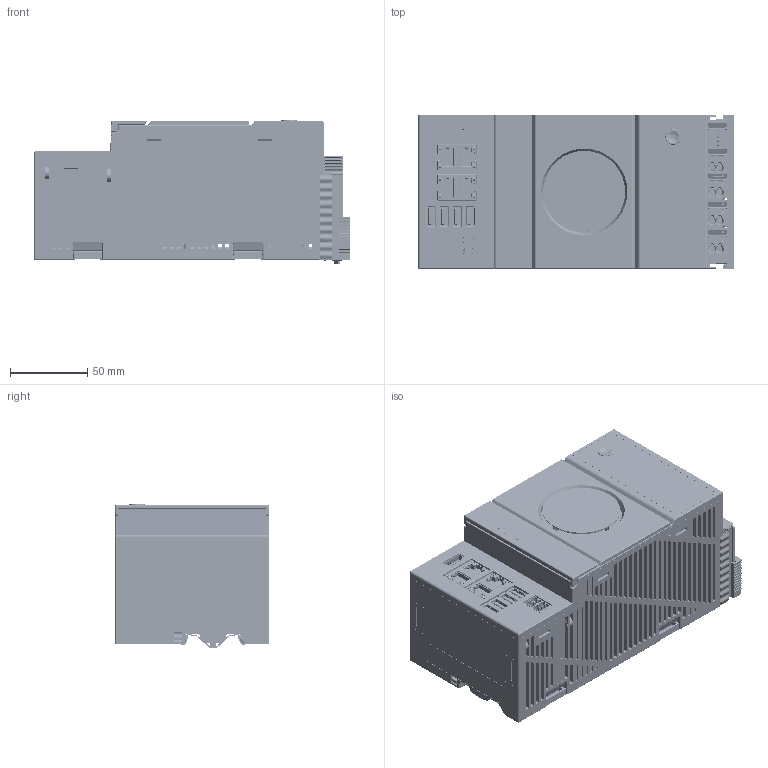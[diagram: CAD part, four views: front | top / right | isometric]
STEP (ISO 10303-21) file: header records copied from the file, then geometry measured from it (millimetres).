
FILE_DESCRIPTION (( 'STEP AP203' ), '1' );
FILE_NAME ('sx2翋儂-褫俋楷.STEP', '2023-08-08T01:57:00', ( '' ), ( '' ), 'SwSTEP 2.0', 'SolidWorks 2016', '' );
FILE_SCHEMA (( 'CONFIG_CONTROL_DESIGN' ));
Length unit declared in the file: millimetre
Products named in the file (57): BATTY; SK-2; NP; CK_ASM; PCB-JK-4RJ45_ASM; BACK-COVER2; SX20-TOP-COVER_ASM; SX20-HARDWARE-COVER_ASM; TJC8_4P; SX20-BACK-COVER_ASM; LCD_PM; DF750-200-1Y-XXAH; SX20-HARDWARE-STACKING_ASM; TOP-COVER1; M2X4X4; 08-CF-CARD_ASM; M3_6; TP-1_32; PMMA; BACK-COVER; TJC8_4P_G; 2032; FS_ZJ_ASM; UG_2864_FPC; LED; PMMA_BJ; TOP-COVER; 15EDGRHC-THR-3_5-04P-13-00A_H_; FS_ZJ2; HK_MLA; TP-2_14; LOCK-1; 笝傷裔啣; TOP-COVER3; PCB-DY-JR; ZZ; CF_1__1; PCB-KZ_ASM; GJ3; FS_ZJ2_ASM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
Assembly tree (80 placements, depth 5):
  sx2翋儂-褫俋楷
    SX20-HARDWARE-STACKING_ASM
      PCB-KZ_ASM
        DF750-200-1Y-XXAH
        PCB-DY-JR
        SW-P-M3-L6  x2
      PCB-JK-4RJ45_ASM
        CK_ASM
          15EDGRHC-THR-3_5-04P-13-00A_H_
        HDMI
        UEA1112C-QHD6-4F_3D
        SW-P-M3-L6
        RRU_2-1_1_  x2
      PCB-DC_ASM
        08-CF-CARD_ASM
          CFAST-C_1
          CF_1__1
        BATTY
        LED  x4
        2032
        SW-P-M3-L6  x2
      ZZ
      M2__3_4  x4
      SW-P-M2-L5  x4
      UG_2864_FPC
      TJC8_4P
      TJC8_4P_G
    SX20-HARDWARE-COVER_ASM
      SX20-TOP-COVER_ASM
        TOP-COVER
        TOP-COVER1
        TOP-COVER2
        SK-2
        PMMA
        TOP-COVER3
        FS_ZJ_ASM
          FS_ZJ
        FS_ZJ2_ASM
          FS_ZJ2
        TP-2_14  x2
        M2X4X4  x2
        M3_6  x4
        KEY
        M2X2X4  x4
        PMMA_BJ
        LCD_PM
        BD_EVA
        NP
      SX20-BACK-COVER_ASM
        BACK-COVER
        BACK-COVER1
        TP-1_32
        BACK-COVER2
        BACK-COVER3
        LOCK-1  x2
        LOCK-2  x2
        GJ3
        HK_MLA
    笝傷裔啣
Bounding box: 204.6 x 100.13 x 93.5 mm (x, y, z)
Volume: 1411986.1 mm3; surface area: 403150.1 mm2
Topology: 66 solids, 126 shells, 18045 faces, 51047 edges, 33199 vertices
Faces by surface type: plane 11741, cylinder 4964, bspline 778, cone 544, torus 18
Entity records: 539683 total; most frequent: CARTESIAN_POINT 154613, ORIENTED_EDGE 86273, DIRECTION 67502, EDGE_CURVE 43196, LINE 29878, VECTOR 29878, VERTEX_POINT 28341, AXIS2_PLACEMENT_3D 18812
